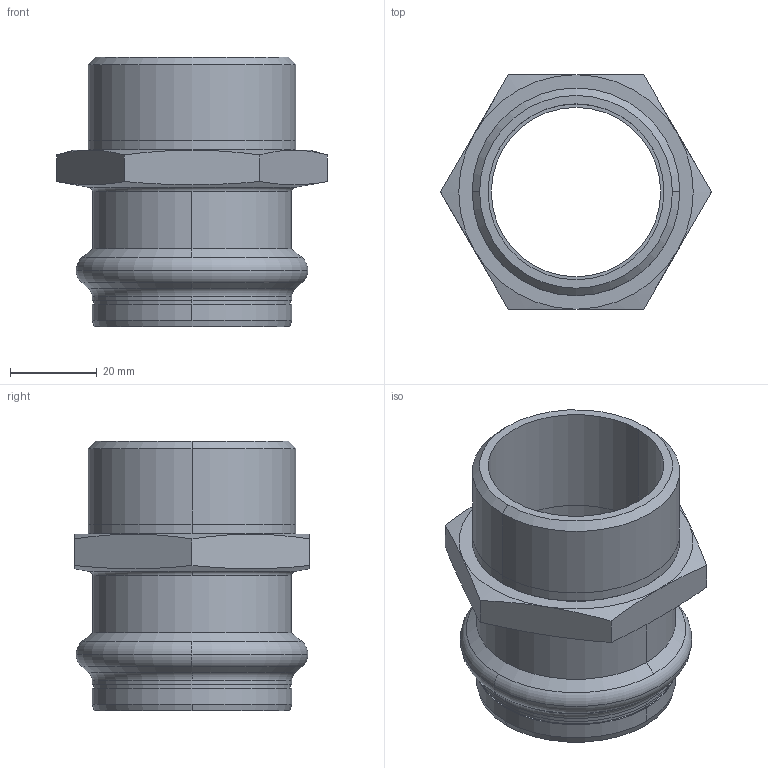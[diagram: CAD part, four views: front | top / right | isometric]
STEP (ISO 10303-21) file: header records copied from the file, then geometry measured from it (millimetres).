
FILE_DESCRIPTION(('CoCreate Modeling STEP Export'),'2;1');
FILE_NAME('8243GVW42112.stp','2013-03-05T10:57:56',(''),(''),'CoCreate Modeling STEP processor for AP214 (Solid Model)','CoCreate Modeling 17.00A 17-Jun-2010 (C) Parametric Technology GmbH','');
FILE_SCHEMA(('AUTOMOTIVE_DESIGN { 1 0 10303 214 1 1 1 1 }'));
Length unit declared in the file: millimetre
Products named in the file (1): 8243GVW42112
Bounding box: 62.35 x 54 x 62.1 mm (x, y, z)
Volume: 31801 mm3; surface area: 20600.3 mm2
Topology: 1 solids, 1 shells, 69 faces, 171 edges, 109 vertices
Faces by surface type: cylinder 24, cone 22, plane 13, torus 10
Entity records: 2415 total; most frequent: CARTESIAN_POINT 1037, ORIENTED_EDGE 342, DIRECTION 204, EDGE_CURVE 171, VERTEX_POINT 109, AXIS2_PLACEMENT_3D 79, EDGE_LOOP 76, FACE_OUTER_BOUND 69
